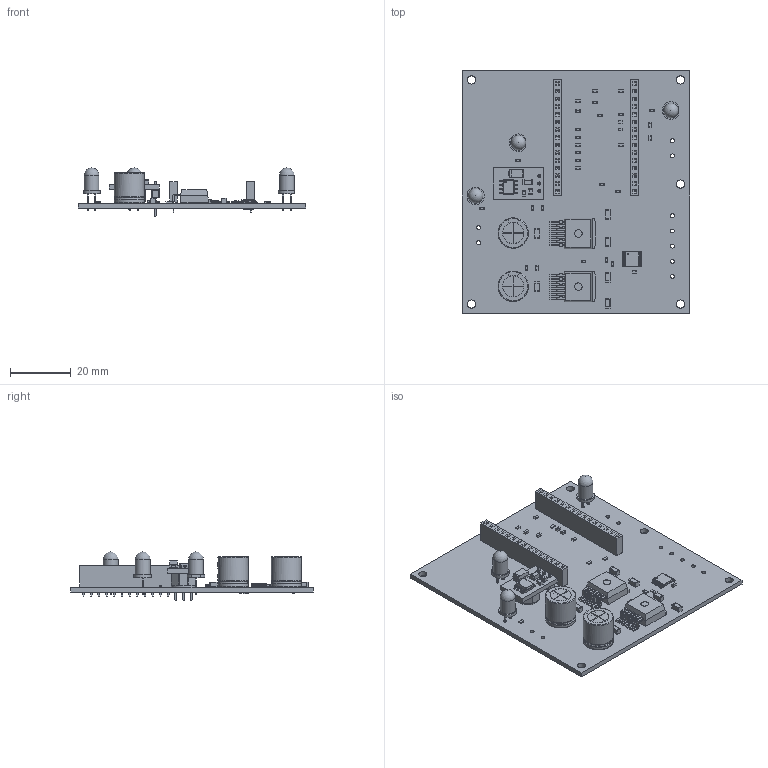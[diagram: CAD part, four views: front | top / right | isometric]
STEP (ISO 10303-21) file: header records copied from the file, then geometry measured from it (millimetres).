
FILE_DESCRIPTION(('KiCad electronic assembly'),'2;1');
FILE_NAME('Doggy Door Controller.step','2024-08-06T21:34:34',('Pcbnew'), ('Kicad'),'Open CASCADE STEP processor 7.8','KiCad to STEP converter', 'Unknown');
FILE_SCHEMA(('AUTOMOTIVE_DESIGN { 1 0 10303 214 1 1 1 1 }'));
Length unit declared in the file: millimetre
Products named in the file (22): Doggy Door Controller 1; TO-263-7_TabPin8; CQ assembly; R_0603_1608Metric; C_1206_3216Metric; C_0603_1608Metric; CP_Radial_D10.0mm_P5.00mm; CP_Radial_D100mm_P500mm; PinSocket_1x15_P2.54mm_Vertical; PinSocket_1x15_P254mm_Vertical; LED_D5.0mm; TSSOP-16_4.4x5mm_P0.65mm; TSSOP_16_44x5mm_P065mm; Converter_DCDC_Murata_OKI-78SR_Horizontal; Converter_DCDC_muRata_OKI-78SR_horizontal; R_1206_3216Metric; Doggy Door Controller_PCB
Assembly tree (60 placements, depth 3):
  Doggy Door Controller 1
    TO-263-7_TabPin8  x2
      CQ assembly
    R_0603_1608Metric  x23
      R_0603_1608Metric
    C_1206_3216Metric  x6
      C_1206_3216Metric
    C_0603_1608Metric  x8
      C_0603_1608Metric
    CP_Radial_D10.0mm_P5.00mm  x2
      CP_Radial_D100mm_P500mm
    PinSocket_1x15_P2.54mm_Vertical  x2
      PinSocket_1x15_P254mm_Vertical
    LED_D5.0mm  x3
      LED_D5.0mm
    TSSOP-16_4.4x5mm_P0.65mm
      TSSOP_16_44x5mm_P065mm
    Converter_DCDC_Murata_OKI-78SR_Horizontal
      Converter_DCDC_muRata_OKI-78SR_horizontal
    R_1206_3216Metric
      R_1206_3216Metric
    Doggy Door Controller_PCB
Bounding box: 75 x 80 x 15.91 mm (x, y, z)
Volume: 14352.1 mm3; surface area: 19311.8 mm2
Topology: 69 solids, 71 shells, 3197 faces, 8344 edges, 5428 vertices
Faces by surface type: plane 2446, cylinder 656, bspline 80, revolution 8, torus 4, sphere 3
Full cylindrical faces by diameter (mm): 0.5 x1, 0.6 x1, 0.7 x4, 0.9 x6, 1 x40, 1.3 x9, 2.5 x2, 2.7 x5, 3 x1, 4.9 x3, 5 x1, 6.3 x1, 8 x1
Entity records: 57987 total; most frequent: CARTESIAN_POINT 9342, ORIENTED_EDGE 8184, DIRECTION 7697, EDGE_CURVE 4092, LINE 3383, VECTOR 3383, VERTEX_POINT 2646, AXIS2_PLACEMENT_3D 2155
